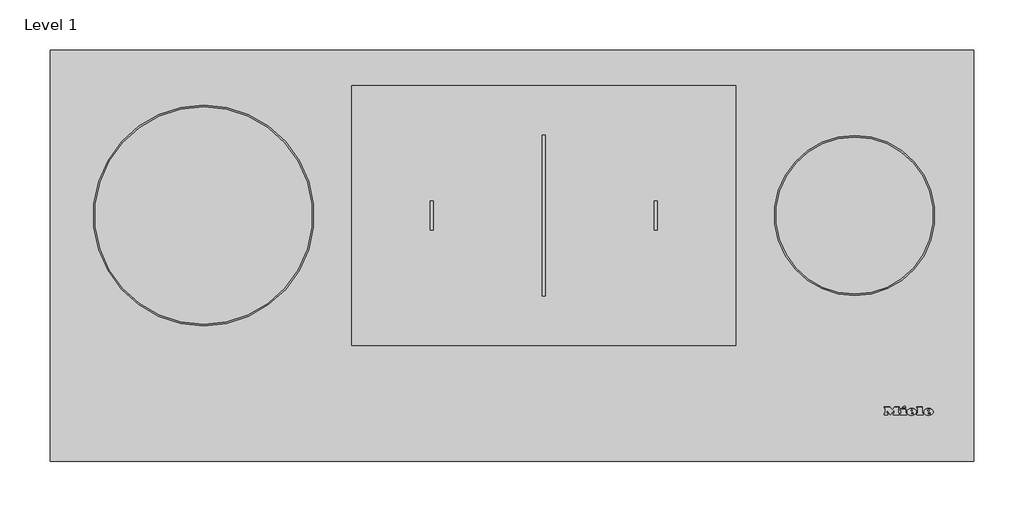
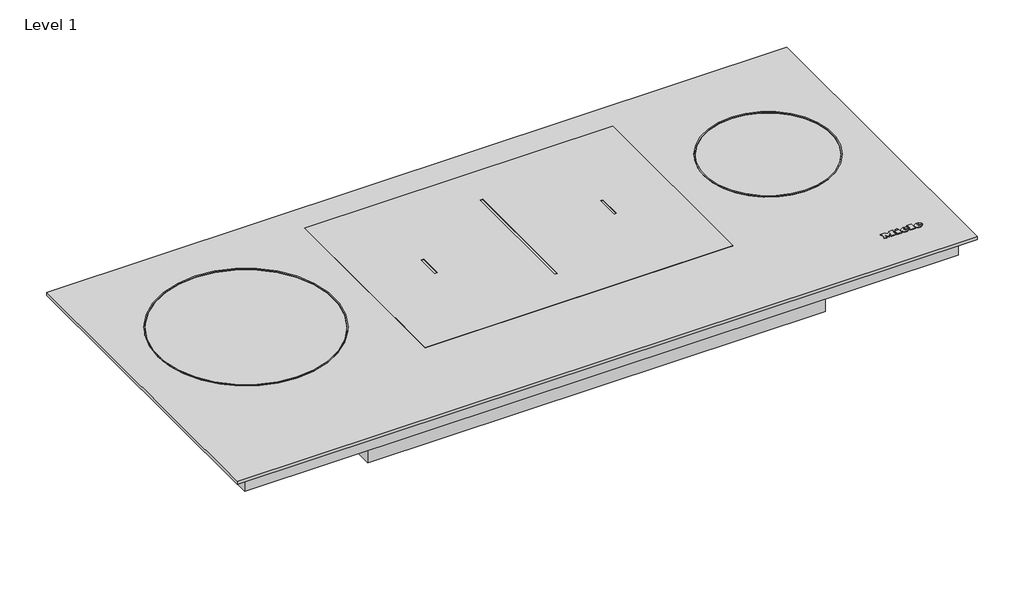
# One storey: 1 proxy.
"""IFC4 building model written with IfcOpenShell, lengths in millimetres."""

from ifc_helpers import new_model, si_unit, origin, place, context, project, spatial, transform, mapped, element, save
from components import specialty_equipment_5bd18841

model = new_model("IFC4")

# Units and contexts
model_context = context("Model", 3, world=origin())
ifc_project = project(units=[si_unit("LENGTHUNIT", "METRE", prefix="MILLI")], contexts=[model_context])

# Site, building, storey
site = spatial("IfcSite", under=ifc_project)
building = spatial("IfcBuilding", under=site)
storey = spatial("IfcBuildingStorey", under=building, Name="Level 1", Elevation=0.0)

# Proxy
placement = place(None, origin())
specialty_equipment_shape = specialty_equipment_5bd18841(model_context)
element("IfcBuildingElementProxy", 1, Name="11512310_RU_KM7689FL : 26768970_RU_11512310_KM7689FL", ObjectType="11512310_RU_KM7689FL : 26768970_RU_11512310_KM7689FL", at=placement, inside=storey, context=model_context, shape_type="MappedRepresentation", body=[
    mapped(specialty_equipment_shape, transform((0.0, 0.0, 0.0), x_axis=(1.0, 0.0, 0.0), y_axis=(0.0, 1.0, 0.0), z_axis=(0.0, 0.0, 1.0))),
])

save(model, "model.ifc")
